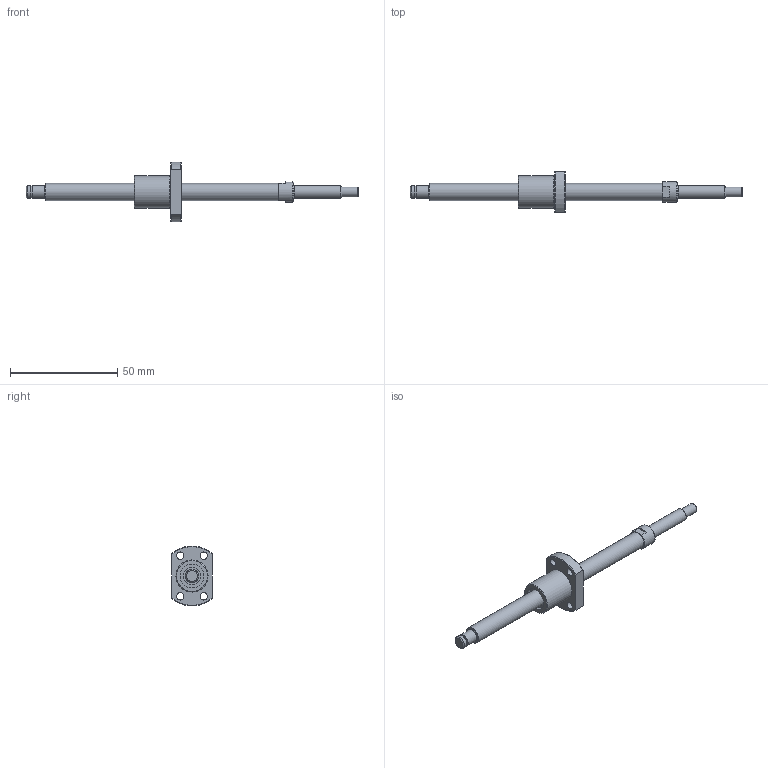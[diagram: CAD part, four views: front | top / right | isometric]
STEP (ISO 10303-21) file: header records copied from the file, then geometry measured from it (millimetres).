
FILE_DESCRIPTION(/* description */ ('STEP AP203'),/* implementation_level */ '2;1');
FILE_NAME(/* name */ 'BNK0802-3RRG0+155LC5Y(63.5)',/* time_stamp */ '2024-07-09T08:47:14+02:00',/* author */ ('License CC BY-ND 4.0'),/* organization */ ('CADENAS'),/* preprocessor_version */ 'ST-DEVELOPER v19.3',/* originating_system */ 'PARTsolutions',/* authorisation */ ' ');
FILE_SCHEMA (('CONFIG_CONTROL_DESIGN'));
Length unit declared in the file: millimetre
Products named in the file (3): BNK0802-3RRG0+155LC5Y(63.5); BNK 0802-3RRG0+155LC5Y Shaft; BNK 0802-3RRG0+155LC5YRR Nut
Assembly tree (2 placements, depth 2):
  BNK0802-3RRG0+155LC5Y(63.5)
    BNK 0802-3RRG0+155LC5Y Shaft
    BNK 0802-3RRG0+155LC5YRR Nut
Bounding box: 155 x 19 x 27.9 mm (x, y, z)
Volume: 10921.3 mm3; surface area: 6615.5 mm2
Topology: 2 solids, 2 shells, 50 faces, 101 edges, 64 vertices
Faces by surface type: plane 21, cylinder 18, cone 9, torus 2
Full cylindrical faces by diameter (mm): 3.4 x4, 4.5 x1, 5.7 x1, 6 x3, 8 x2, 9.5 x1, 11 x2, 14 x1, 15 x1
Entity records: 1295 total; most frequent: DIRECTION 226, CARTESIAN_POINT 217, ORIENTED_EDGE 154, AXIS2_PLACEMENT_3D 104, EDGE_LOOP 92, FACE_BOUND 92, EDGE_CURVE 77, VERTEX_POINT 63
